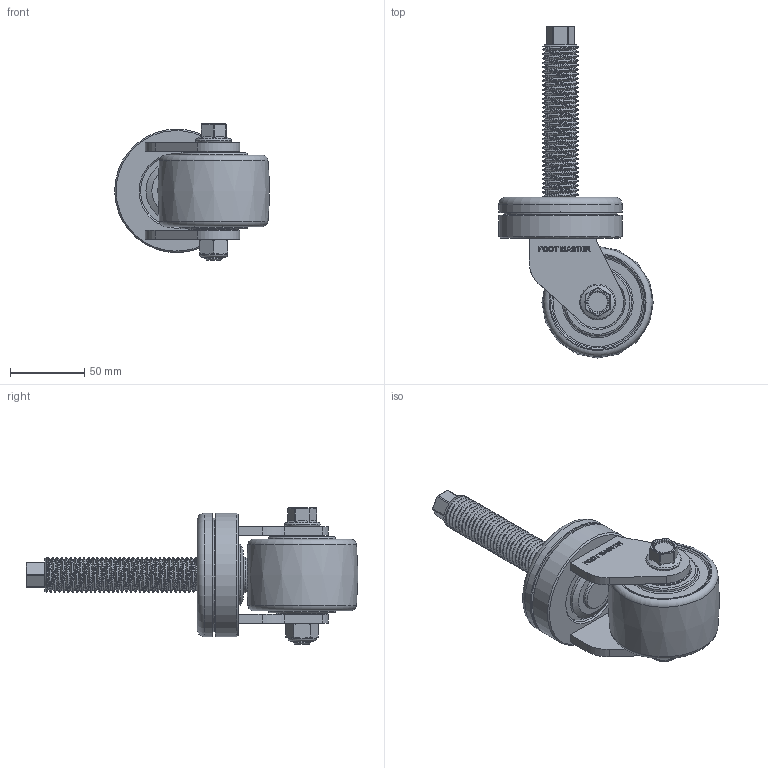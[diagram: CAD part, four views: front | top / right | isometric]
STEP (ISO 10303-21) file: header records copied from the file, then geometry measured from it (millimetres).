
FILE_DESCRIPTION(/* description */ (''),/* implementation_level */ '2;1');
FILE_NAME(/* name */ 'D:/GXT-75-ASS-NYD-PM24x115L_ALL v13.step',/* time_stamp */ '2022-03-28T16:19:43+09:00',/* author */ (''),/* organization */ (''),/* preprocessor_version */ 'ST-DEVELOPER v18.1',/* originating_system */ 'Autodesk Translation Framework v10.13.0.1454',/* authorisation */ '');
FILE_SCHEMA (('AUTOMOTIVE_DESIGN { 1 0 10303 214 3 1 1 }'));
Length unit declared in the file: millimetre
Products named in the file (5): GXT-75-ASS-NYD-PM24x115L_ALL; 94645A230; 5972K314; Component3; Component4
Assembly tree (5 placements, depth 2):
  GXT-75-ASS-NYD-PM24x115L_ALL
    94645A230
    5972K314  x2
    Component3
    Component4
Bounding box: 103.88 x 223 x 91.5 mm (x, y, z)
Volume: 413401.2 mm3; surface area: 99630.6 mm2
Topology: 36 solids, 36 shells, 492 faces, 1228 edges, 792 vertices
Faces by surface type: plane 184, cylinder 128, bspline 85, cone 41, sphere 30, torus 24
Full cylindrical faces by diameter (mm): 9.727 x5, 11.834 x1, 12 x5, 12.363 x1, 14 x1, 15 x3, 15.2 x2, 20.329 x33, 22.89 x4, 23.765 x35, 24 x1, 27.11 x4, 35 x4, 41 x1, 48.2 x1, 76.2 x1, 83 x2
Entity records: 23502 total; most frequent: CARTESIAN_POINT 13221, ORIENTED_EDGE 2276, DIRECTION 1741, EDGE_CURVE 1138, VERTEX_POINT 750, AXIS2_PLACEMENT_3D 593, LINE 555, VECTOR 555
